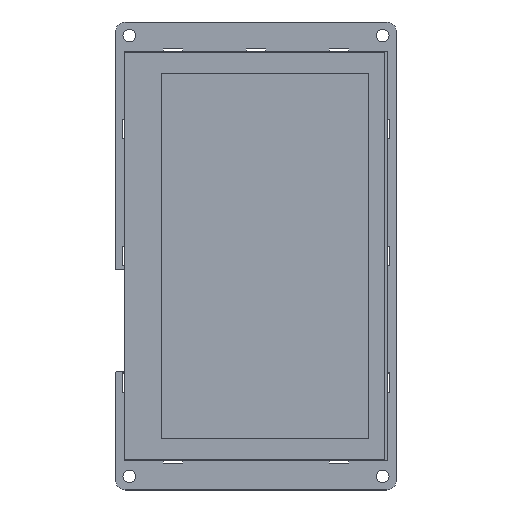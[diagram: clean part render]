
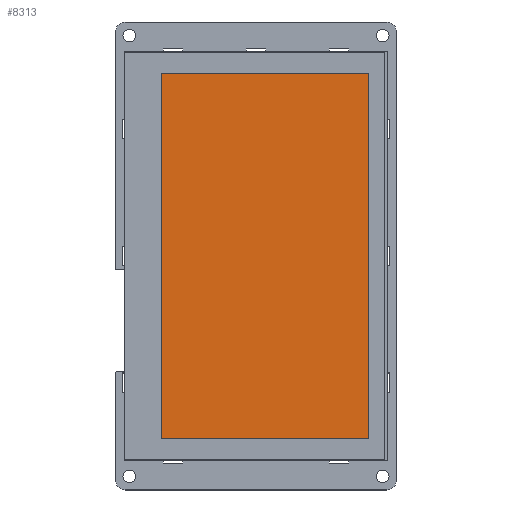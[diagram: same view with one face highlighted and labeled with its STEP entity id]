
A CAD part, top view. The second image highlights one B-rep face of the part: STEP entity #8313.
In plain terms, the highlighted planar face has unit normal (0, 0, 1).
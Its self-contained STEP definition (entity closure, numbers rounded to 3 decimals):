
#2367=DIRECTION('',(-1.,0.,0.));
#2368=VECTOR('',#2367,54.);
#2369=CARTESIAN_POINT('',(29.382,47.595,7.95));
#2370=LINE('',#2369,#2368);
#2375=DIRECTION('',(0.,1.,0.));
#2376=VECTOR('',#2375,95.2);
#2377=CARTESIAN_POINT('',(29.382,-47.605,7.95));
#2378=LINE('',#2377,#2376);
#2383=DIRECTION('',(1.,0.,0.));
#2384=VECTOR('',#2383,54.);
#2385=CARTESIAN_POINT('',(-24.618,-47.605,7.95));
#2386=LINE('',#2385,#2384);
#2391=DIRECTION('',(0.,-1.,0.));
#2392=VECTOR('',#2391,95.2);
#2393=CARTESIAN_POINT('',(-24.618,47.595,7.95));
#2394=LINE('',#2393,#2392);
#4038=CARTESIAN_POINT('',(29.382,47.595,7.95));
#4039=VERTEX_POINT('',#4038);
#4040=CARTESIAN_POINT('',(-24.618,47.595,7.95));
#4041=VERTEX_POINT('',#4040);
#4042=CARTESIAN_POINT('',(29.382,-47.605,7.95));
#4043=VERTEX_POINT('',#4042);
#4044=CARTESIAN_POINT('',(-24.618,-47.605,7.95));
#4045=VERTEX_POINT('',#4044);
#8302=CARTESIAN_POINT('',(-34.238,52.995,7.95));
#8303=DIRECTION('',(0.,0.,1.));
#8304=DIRECTION('',(0.,-1.,0.));
#8305=AXIS2_PLACEMENT_3D('',#8302,#8303,#8304);
#8306=PLANE('',#8305);
#8307=ORIENTED_EDGE('',*,*,#8254,.F.);
#8308=ORIENTED_EDGE('',*,*,#8269,.F.);
#8309=ORIENTED_EDGE('',*,*,#8283,.F.);
#8310=ORIENTED_EDGE('',*,*,#8296,.F.);
#8311=EDGE_LOOP('',(#8307,#8308,#8309,#8310));
#8312=FACE_OUTER_BOUND('',#8311,.F.);
#8254=EDGE_CURVE('',#4039,#4041,#2370,.T.);
#8269=EDGE_CURVE('',#4043,#4039,#2378,.T.);
#8283=EDGE_CURVE('',#4045,#4043,#2386,.T.);
#8296=EDGE_CURVE('',#4041,#4045,#2394,.T.);
#8313=ADVANCED_FACE('',(#8312),#8306,.T.);
